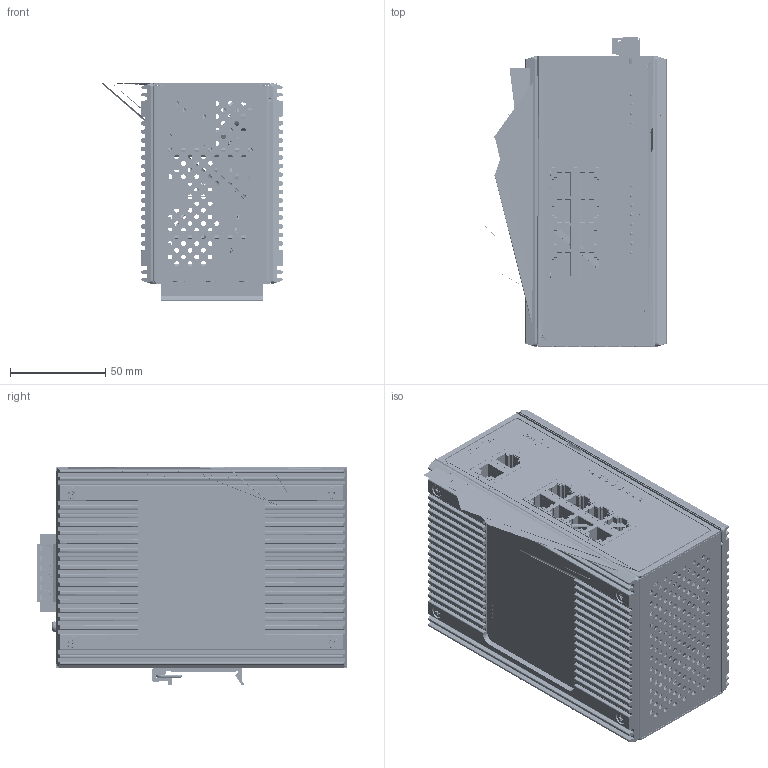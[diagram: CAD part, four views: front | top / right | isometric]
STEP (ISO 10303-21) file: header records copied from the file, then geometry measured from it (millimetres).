
FILE_DESCRIPTION (( 'STEP AP214' ), '1' );
FILE_NAME ('assembly-EKI-5729PI.STEP', '2019-04-15T00:38:14', ( 'user' ), ( '' ), 'SwSTEP 2.0', 'SolidWorks 2018', '' );
FILE_SCHEMA (( 'AUTOMOTIVE_DESIGN' ));
Length unit declared in the file: millimetre
Products named in the file (153): SOT23_1310004019; 1935130610_默_; DIODE_2P_275_313X245_130000423801; st_20150331_1039_5856871; INDUCTOR_3P_7443630700_121100511201; C0805_112452265001; 1759103100; 1653005892-01_默_; SOT23_1310003829; 1930001065; DIODE_2P_130_138X63_1302005140; st_20151020_1140_3788823; QFN_38P_20_276X197_TP_141002377001; C0805_110000039501; 1129510180-02_默_; 1655003747; SOT23_1310003828; assy-din-3424_ASSY-DIN RAIL-3425; INDUCTOR_2P_271_307X307_121100533901; 1410022994-01_默_; 1400005182-01_默_; C0805_110000665601; SOT23_6P_H57_1300000373; INDUCTOR_2P_364_453X406_1211004233; SOT23_1310004575; pin-din rail; 1211002099_默_; WSON_8P_31_157X157_TP118X78_141002486301; 1410023821-01_默_; C0805_110000562701; SOT23_1310002613; SOIC_8P_50_192X234_1410021914; SOT23_1310390410; SPRING-3425; TPS20X2SHORT_0030000005; EC_197_BD394_H630_D_110000004301; C0805_110000025401; TP28_0030000003; SC70_5P_1410021341; SOT23_1300005400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
Assembly tree (356 placements, depth 3):
  assembly-EKI-5729PI
    lower cover_EKI-7710G-2CPIAE-CSK-62H_lower cover_EKI-5729PI_CSK
    top cover_EKI-7710G-2CPIAE-62H_top cover_EKI-5629PI
    cover plate-R_EKI-5728P-6H_V3.0_COVER-R
    1930005840-01  x8
    cover plate-R_EKI-5728P-6H_V3.0_cover plate-L_EKI-5728p-6h
    assy-din-3424_ASSY-DIN RAIL-3425
      din-rail-3424_DIN RAIL-3425
      SPRING-3425
      pin-din rail
    1930001065  x3
    1935130610_默_
    1652005926-01_默_
    mylar_EKI-5728P_mylar_EKI-5629PI
    st_20151020_1140_3788823
      st_20151020_1140_3788823
      COIL_4P_256X492_925X610_D_121100515901
      C_2P_394_472X276_D_110000914101
      INDUCTOR_4P_150X394_591X591_D_121100592701
      RELAY_OJESS103HM_129000221801
      1304001206_默_  x10
      1304002347  x2
      EC_197_BD394_H551_D_110000822801  x3
      EC_197_BD394_H689_D_110000358401  x3
      EC_197_BD394_H846_D_110000111301
      SOIC_8P_26_114X110_1410007241
      EC_197_BD394_H630_D_110000004301
      1410023821-01_默_  x2
      1400005182-01_默_
      QFN_38P_20_276X197_TP_141002377001
      INDUCTOR_3P_7443630700_121100511201
      TRANS_8P_750342493_125200243401
      1410005460
      R2512_POLE69_100000797303
      1750000417
      1310002993_默_  x2
      1652601200_默_
      DFN_12P_20_157X118_141002367301
      INDUCTOR_2P_121_146X114_1211110070
      EC_2P_197_BD394_H453_110000406401  x2
      1211003967_默_
      C1808_1129510180  x4
      C1808_112951039001  x3
      1653004100_默_
      SC70_5P_1410021341
      SOIC_8P_50_192X234_1410021914  x2
      INDUCTOR_2P_364_453X406_1211004233
      1655003747
      1653005892-01_默_
      0010000027  x6
      1652005888_默_
      FIDUCIAL_0060000001  x4
      XTAL_2P_71_79X51_123100268801
      R2512_1000007808
      R2512_105350017901  x2
      R1210_100000778001
      R0805_105974707103
      R0805_105950100101
      R0805_105951000101
      R0805_105951002002
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Bounding box: 95 x 162 x 114.04 mm (x, y, z)
Volume: 467080.2 mm3; surface area: 349179.4 mm2
Topology: 482 solids, 488 shells, 17306 faces, 44542 edges, 29400 vertices
Faces by surface type: plane 13358, cylinder 3131, bspline 539, cone 172, torus 92, sphere 14
Entity records: 527843 total; most frequent: CARTESIAN_POINT 107296, ORIENTED_EDGE 73308, DIRECTION 68265, EDGE_CURVE 36654, VECTOR 29785, LINE 29785, VERTEX_POINT 24205, AXIS2_PLACEMENT_3D 19240
